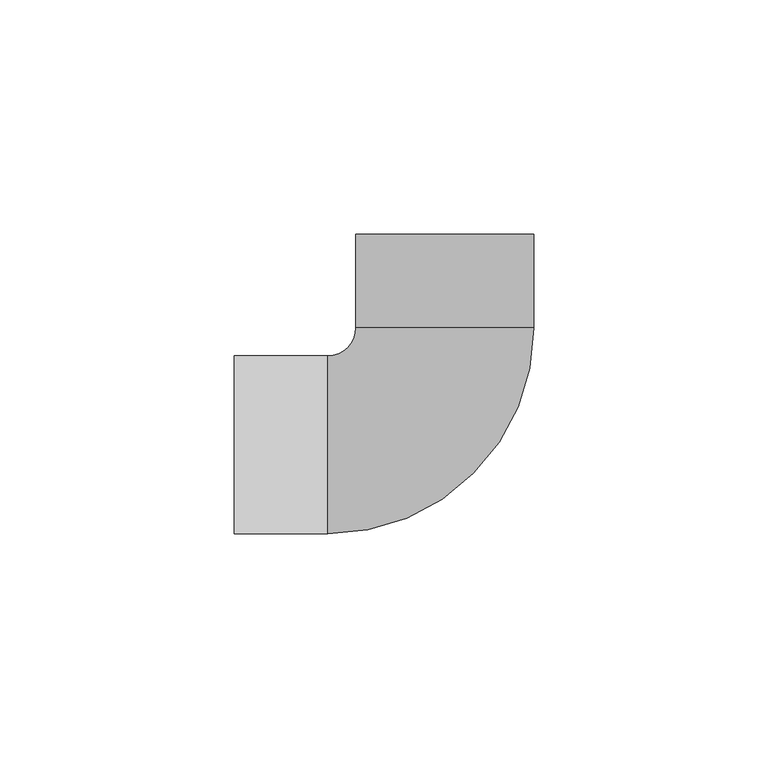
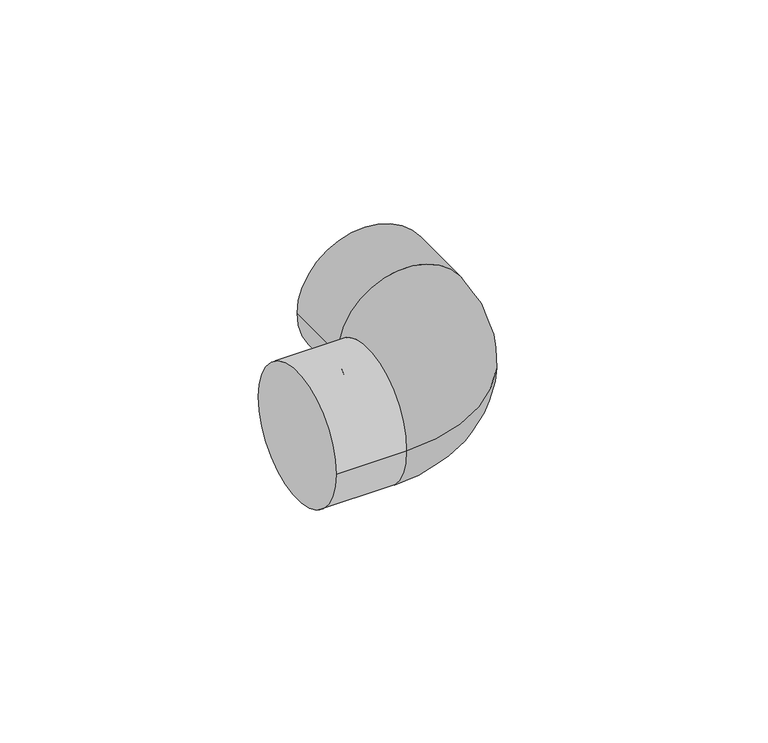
"""IFC4 building model written with IfcOpenShell, lengths in millimetres: pipe fitting geometry, 01101002 : Coudes à 90º."""

import ifcopenshell
import ifcopenshell.guid

model = None  # the IFC model being written
_history = None  # IfcOwnerHistory: only IFC2X3 demands one
_inside = {}  # id of a spatial element -> (the spatial element, [elements in it])
_under = {}  # id of a project, library or spatial element -> (it, [spatial elements below it])
_declared = {}  # id of a project -> (the project, [libraries it declares])
_typed = {}  # id of a type object -> (the type object, [elements of that type])
_made_of = {}  # id of a material, layer set ... -> (it, [elements and type objects made of it])


def new_model(schema):
    """Start an empty IFC model of exactly this schema.

    Asked for "IFC4X3", IfcOpenShell would pick the latest addendum, in which some entities
    have other attributes; the version numbers below select the first issue.
    IFC2X3 requires an IfcOwnerHistory on every rooted entity: one is made here for all.
    """
    global model, _history
    if schema == "IFC4X3":
        model = ifcopenshell.file(schema_version=(4, 3, 0, 0))
    else:
        model = ifcopenshell.file(schema=schema)
    _inside.clear()
    _under.clear()
    _declared.clear()
    _typed.clear()
    _made_of.clear()
    _history = None
    if model.schema == "IFC2X3":
        org = make("IfcOrganization", Name="unknown")
        user = make(
            "IfcPersonAndOrganization",
            ThePerson=make("IfcPerson", FamilyName="unknown"),
            TheOrganization=org,
        )
        app = make(
            "IfcApplication",
            ApplicationDeveloper=org,
            Version="unknown",
            ApplicationFullName="unknown",
            ApplicationIdentifier="unknown",
        )
        _history = make(
            "IfcOwnerHistory",
            OwningUser=user,
            OwningApplication=app,
            ChangeAction="ADDED",
            CreationDate=0,
        )
    return model


def make(cls, **values):
    """One entity of the class cls with the attributes given. An attribute that is None is left unset."""
    return model.create_entity(
        cls, **{name: value for name, value in values.items() if value is not None}
    )


def rooted(cls, **values):
    """An entity with a GlobalId (a new one), such as an element, a storey or a relation."""
    return make(cls, GlobalId=ifcopenshell.guid.new(), OwnerHistory=_history, **values)


def si_unit(unit_type, name, prefix=None):
    """IfcSIUnit, for example si_unit("LENGTHUNIT", "METRE", prefix="MILLI")."""
    return make("IfcSIUnit", UnitType=unit_type, Prefix=prefix, Name=name)


def assignment(units):
    """IfcUnitAssignment: the units of a project."""
    return None if units is None else make("IfcUnitAssignment", Units=units)


def point(xyz):
    """IfcCartesianPoint."""
    return None if xyz is None else make("IfcCartesianPoint", Coordinates=xyz)


def direction(xyz):
    """IfcDirection."""
    return None if xyz is None else make("IfcDirection", DirectionRatios=xyz)


def frame(location, z_axis=None, x_axis=None):
    """IfcAxis2Placement3D, a coordinate frame: its origin and axes. An axis left out is left unset."""
    return make(
        "IfcAxis2Placement3D",
        Location=point(location),
        Axis=direction(z_axis),
        RefDirection=direction(x_axis),
    )


def origin():
    """The frame at (0, 0, 0) with its axes left unset."""
    return frame((0.0, 0.0, 0.0))


def place(relative_to, where):
    """IfcLocalPlacement: puts the frame where relative to a parent placement (None: the world)."""
    return make(
        "IfcLocalPlacement", PlacementRelTo=relative_to, RelativePlacement=where
    )


def context(
    kind, dimensions, precision=None, world=None, true_north=None, identifier=None
):
    """IfcGeometricRepresentationContext, for example the 3D "Model" context."""
    return make(
        "IfcGeometricRepresentationContext",
        ContextIdentifier=identifier,
        ContextType=kind,
        CoordinateSpaceDimension=dimensions,
        Precision=precision,
        WorldCoordinateSystem=world,
        TrueNorth=true_north,
    )


def project(units=None, contexts=None):
    """IfcProject with its units and contexts."""
    return rooted(
        "IfcProject",
        Name="project",
        RepresentationContexts=contexts,
        UnitsInContext=assignment(units),
    )


def spatial(cls, under=None, at=None, **own):
    """A site, building, storey or space (cls), placed at a placement, below another one or the project."""
    s = rooted(cls, ObjectPlacement=at, **own)
    if under is not None:
        _under.setdefault(under.id(), (under, []))[1].append(s)
    return s


def circle_curve(where, radius):
    """IfcCircle in the frame where."""
    return make("IfcCircle", Position=where, Radius=radius)


def ellipse_curve(where, semi_axis1, semi_axis2):
    """IfcEllipse in the frame where."""
    return make(
        "IfcEllipse", Position=where, SemiAxis1=semi_axis1, SemiAxis2=semi_axis2
    )


def trimmed(basis, trim1, trim2, sense, master):
    """IfcTrimmedCurve: the piece of a basis curve between two trims."""
    return make(
        "IfcTrimmedCurve",
        BasisCurve=basis,
        Trim1=trim1,
        Trim2=trim2,
        SenseAgreement=sense,
        MasterRepresentation=master,
    )


def shape(context_of_items, identifier, shape_type, items):
    """IfcShapeRepresentation: the items that make up one representation, for example the "Body"."""
    return make(
        "IfcShapeRepresentation",
        ContextOfItems=context_of_items,
        RepresentationIdentifier=identifier,
        RepresentationType=shape_type,
        Items=items,
    )


def source(mapping_origin, context_of_items, identifier, shape_type, items):
    """IfcRepresentationMap: a shape defined once, which mapped items show again and again."""
    return make(
        "IfcRepresentationMap",
        MappingOrigin=mapping_origin,
        MappedRepresentation=shape(context_of_items, identifier, shape_type, items),
    )


def transform(
    local_origin,
    x_axis=None,
    y_axis=None,
    z_axis=None,
    scale=None,
    scale2=None,
    scale3=None,
    uniform=True,
):
    """IfcCartesianTransformationOperator3D, or its non-uniform kind. x_axis, y_axis, z_axis: its Axis1, 2, 3."""
    if uniform:
        return make(
            "IfcCartesianTransformationOperator3D",
            Axis1=direction(x_axis),
            Axis2=direction(y_axis),
            LocalOrigin=point(local_origin),
            Scale=scale,
            Axis3=direction(z_axis),
        )
    return make(
        "IfcCartesianTransformationOperator3DnonUniform",
        Axis1=direction(x_axis),
        Axis2=direction(y_axis),
        LocalOrigin=point(local_origin),
        Scale=scale,
        Axis3=direction(z_axis),
        Scale2=scale2,
        Scale3=scale3,
    )


def mapped(mapping_source, mapping_target):
    """IfcMappedItem: shows the shape of a source again, moved by a transform."""
    return make(
        "IfcMappedItem", MappingSource=mapping_source, MappingTarget=mapping_target
    )


def made_of(thing, what):
    """Note that an element or type object is made of a material, layer set ...; save() writes the relation."""
    if what is not None:
        _made_of.setdefault(what.id(), (what, []))[1].append(thing)
    return thing


def element(
    cls,
    number,
    at=None,
    inside=None,
    cuts=None,
    type_object=None,
    material=None,
    context=None,
    identifier="Body",
    shape_type=None,
    held_by="IfcProductDefinitionShape",
    body=None,
    shapes=None,
    **own,
):
    """One element of the class cls, such as IfcWall. Its Tag is "e" and its number.

    at: its placement. inside: the storey or other place that contains it. cuts: it is an
    opening in that element (IfcRelVoidsElement). A single representation is given by context,
    identifier, shape_type and body (its items); several are given by shapes. held_by: the class
    of the entity that holds the representations. save() writes the other relations.
    """
    e = rooted(cls, Tag="e%d" % number, ObjectPlacement=at, **own)
    if body is not None:
        shapes = [shape(context, identifier, shape_type, body)]
    if shapes is not None:
        e.Representation = make(held_by, Representations=shapes)
    if inside is not None:
        _inside.setdefault(inside.id(), (inside, []))[1].append(e)
    if cuts is not None:
        rooted(
            "IfcRelVoidsElement", RelatingBuildingElement=cuts, RelatedOpeningElement=e
        )
    if type_object is not None:
        _typed.setdefault(type_object.id(), (type_object, []))[1].append(e)
    return made_of(e, material)


def aggregate(whole, parts):
    """IfcRelAggregates: a whole, such as a stair, and the parts it consists of."""
    return rooted("IfcRelAggregates", RelatingObject=whole, RelatedObjects=parts)


def save(model, path):
    """Write the relations noted so far, then the file.

    IfcRelAggregates (storeys below a building ...), IfcRelContainedInSpatialStructure (elements
    in a storey), IfcRelDefinesByType, IfcRelAssociatesMaterial and IfcRelDeclares: one each for
    every whole, place, type object, material and project.
    """
    for whole, parts in _under.values():
        aggregate(whole, parts)
    for where, things in _inside.values():
        rooted(
            "IfcRelContainedInSpatialStructure",
            RelatedElements=things,
            RelatingStructure=where,
        )
    for kind, things in _typed.values():
        rooted("IfcRelDefinesByType", RelatedObjects=things, RelatingType=kind)
    for what, things in _made_of.values():
        rooted("IfcRelAssociatesMaterial", RelatedObjects=things, RelatingMaterial=what)
    for by, libraries in _declared.values():
        rooted("IfcRelDeclares", RelatingContext=by, RelatedDefinitions=libraries)
    model.write(path)


def plane_surface(at):
    """IfcPlane: the flat surface through the origin of the frame at, square to its z axis."""
    return make("IfcPlane", Position=at)


def cylinder_surface(at, radius):
    """IfcCylindricalSurface: all points at the distance radius from the z axis of the frame at."""
    return make("IfcCylindricalSurface", Position=at, Radius=radius)


def revolved_surface(curve, axis_point, axis_direction):
    """IfcSurfaceOfRevolution: the curve turned about the line through axis_point along axis_direction."""
    return make(
        "IfcSurfaceOfRevolution",
        SweptCurve=make("IfcArbitraryOpenProfileDef", ProfileType="CURVE", Curve=curve),
        AxisPosition=make("IfcAxis1Placement", Location=point(axis_point), Axis=direction(axis_direction)),
    )


def advanced_brep(points, edges, surfaces, faces):
    """IfcAdvancedBrep: a solid bounded by faces that lie on surfaces and meet in shared edges.

    An edge is (start, end): straight between two places in points (the first is 0);
    or (start, end, curve); or (start, end, curve, False) where it runs against its curve.
    A face is (place in surfaces, loops), or (place, loops, False) where it looks against
    its surface's normal. A loop lists edges by number (the first is 1), with a minus sign
    where the edge is run from its end to its start. The first loop is the outer one.
    """
    corners = [point(p) for p in points]
    vertices = [make("IfcVertexPoint", VertexGeometry=c) for c in corners]
    made = []
    for start, end, *more in edges:
        made.append(
            make(
                "IfcEdgeCurve",
                EdgeStart=vertices[start],
                EdgeEnd=vertices[end],
                EdgeGeometry=more[0] if more else make("IfcPolyline", Points=[corners[start], corners[end]]),
                SameSense=more[1] if len(more) > 1 else True,
            )
        )
    hull = []
    for where, loops, *sense in faces:
        bounds = []
        for j, loop in enumerate(loops):
            ring = [make("IfcOrientedEdge", EdgeElement=made[abs(k) - 1], Orientation=k > 0) for k in loop]
            bounds.append(
                make(
                    "IfcFaceOuterBound" if j == 0 else "IfcFaceBound",
                    Bound=make("IfcEdgeLoop", EdgeList=ring),
                    Orientation=True,
                )
            )
        hull.append(make("IfcAdvancedFace", Bounds=bounds, FaceSurface=surfaces[where], SameSense=sense[0] if sense else True))
    return make("IfcAdvancedBrep", Outer=make("IfcClosedShell", CfsFaces=hull))


def pipe_fitting_8ff2c409(model_context):
    return source(origin(), model_context, "Body", "AdvancedBrep", [
        advanced_brep(
        [(-25.0, -19.0, 0.0), (19.0, 25.0, 0.0), (-19.0, 25.0, 0.0), (-25.0, 19.0, 0.0), (-19.0, 45.0, 0.0), (19.0, 45.0, 0.0), (-45.0, 19.0, 0.0), (-45.0, -19.0, 0.0)],
        [
            (0, 1, circle_curve(frame((-25.0, 25.0, 0.0), z_axis=(0.0, 0.0, 1.0), x_axis=(1.0, 0.0, 0.0)), 44.0)),
            (1, 2, circle_curve(frame((0.0, 25.0, 0.0), z_axis=(0.0, -1.0, 0.0), x_axis=(1.0, 0.0, 0.0)), 19.0)),
            (2, 3, circle_curve(frame((-25.0, 25.0, 0.0), z_axis=(0.0, 0.0, -1.0), x_axis=(1.0, 0.0, 0.0)), 6.0)),
            (3, 0, circle_curve(frame((-25.0, 0.0, 0.0), z_axis=(1.0, 0.0, 0.0), x_axis=(0.0, -1.0, 0.0)), 19.0)),
            (2, 1, circle_curve(frame((0.0, 25.0, 0.0), z_axis=(0.0, -1.0, 0.0), x_axis=(1.0, 0.0, 0.0)), 19.0)),
            (0, 3, circle_curve(frame((-25.0, 0.0, 0.0), z_axis=(1.0, 0.0, 0.0), x_axis=(0.0, -1.0, 0.0)), 19.0)),
            (4, 5, circle_curve(frame((0.0, 45.0, 0.0), z_axis=(0.0, 1.0, 0.0), x_axis=(1.0, 0.0, 0.0)), 19.0)),
            (5, 4, circle_curve(frame((0.0, 45.0, 0.0), z_axis=(0.0, 1.0, 0.0), x_axis=(1.0, 0.0, 0.0)), 19.0)),
            (6, 7, circle_curve(frame((-45.0, 0.0, 0.0), z_axis=(-1.0, 0.0, 0.0), x_axis=(0.0, -1.0, 0.0)), 19.0)),
            (7, 6, circle_curve(frame((-45.0, 0.0, 0.0), z_axis=(-1.0, 0.0, 0.0), x_axis=(0.0, -1.0, 0.0)), 19.0)),
            (3, 6),
            (7, 0),
            (4, 2),
            (1, 5),
        ],
        [
            revolved_surface(trimmed(ellipse_curve(frame((0.0, 25.0, 0.0), z_axis=(0.0, 1.0, 0.0), x_axis=(1.0, 0.0, 0.0)), 19.0, 19.0), [point((-19.0, 25.0, 0.0))], [point((19.0, 25.0, 0.0))], True, "CARTESIAN"), (-25.0, 25.0, 0.0), (0.0, 0.0, -1.0)),
            revolved_surface(trimmed(ellipse_curve(frame((0.0, 25.0, 0.0), z_axis=(0.0, 1.0, 0.0), x_axis=(1.0, 0.0, 0.0)), 19.0, 19.0), [point((19.0, 25.0, 0.0))], [point((-19.0, 25.0, 0.0))], True, "CARTESIAN"), (-25.0, 25.0, 0.0), (0.0, 0.0, -1.0)),
            plane_surface(frame((0.0, 45.0, 0.0), z_axis=(0.0, 1.0, 0.0), x_axis=(0.0, 0.0, 1.0))),
            plane_surface(frame((-45.0, 0.0, 0.0), z_axis=(-1.0, 0.0, 0.0), x_axis=(0.0, 0.0, 1.0))),
            cylinder_surface(frame((-25.0, 0.0, 0.0), z_axis=(1.0, 0.0, 0.0), x_axis=(0.0, -1.0, 0.0)), 19.0),
            cylinder_surface(frame((0.0, 45.0, 0.0), z_axis=(0.0, 1.0, 0.0), x_axis=(1.0, 0.0, 0.0)), 19.0),
        ],
        [
            (0, [[1, 2, 3, 4]]),
            (1, [[-3, 5, -1, 6]]),
            (2, [[7, 8]]),
            (3, [[9, 10]]),
            (4, [[-4, 11, -10, 12]]),
            (4, [[-6, -12, -9, -11]]),
            (5, [[-7, 13, -2, 14]]),
            (5, [[-8, -14, -5, -13]]),
        ],
    ),
    ])


if __name__ == "__main__":
    model = new_model("IFC4")
    model_context = context("Model", 3, world=origin())
    ifc_project = project(units=[si_unit("LENGTHUNIT", "METRE", prefix="MILLI")], contexts=[model_context])
    site = spatial("IfcSite", under=ifc_project)
    building = spatial("IfcBuilding", under=site)
    placement = place(None, origin())
    pipe_fitting_shape = pipe_fitting_8ff2c409(model_context)
    element("IfcPipeFitting", 1, ObjectType="01101002 : Coudes à 90º", at=placement, inside=building, context=model_context, shape_type="MappedRepresentation", body=[
        mapped(pipe_fitting_shape, transform((0.0, 0.0, 0.0), x_axis=(1.0, 0.0, 0.0), y_axis=(0.0, 1.0, 0.0), z_axis=(0.0, 0.0, 1.0))),
    ])
    save(model, "model.ifc")
